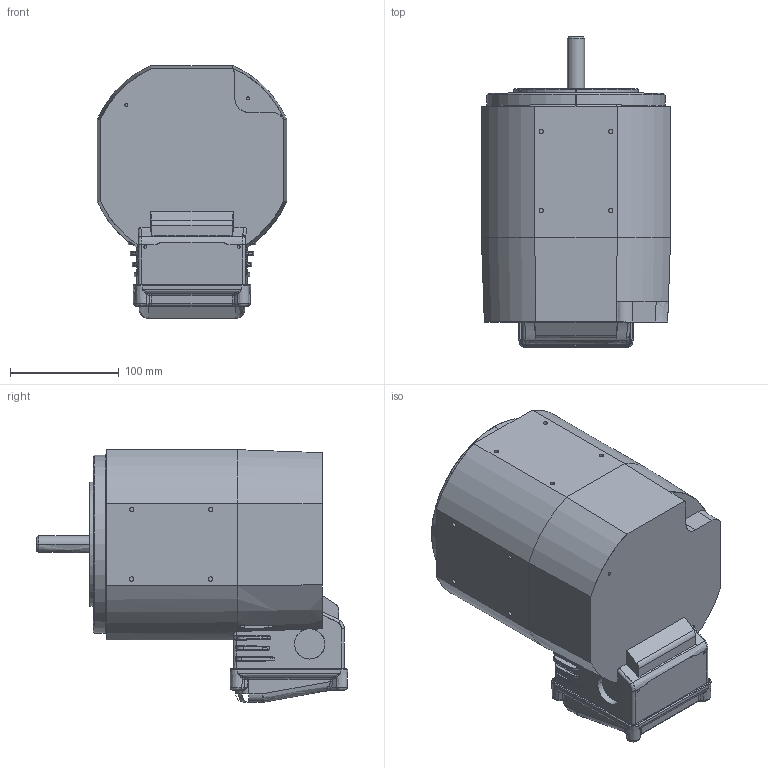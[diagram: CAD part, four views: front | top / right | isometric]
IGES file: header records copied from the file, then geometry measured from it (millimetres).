
Start section: SolidWorks IGES file using analytic representation for surfaces
Global section: file name: C:\TeknicPDM\AC Green\AC Green Customer Downloadable Files\CPM-_ _ _ _-N056_ _-_ _ _ _SIMPLIFIED.IGS; native system: SolidWorks 2020; preprocessor: SolidWorks 2020; author: ken_call; date: 230222.151810; units: inch
Bounding box: 174.24 x 286.59 x 232.55 mm (x, y, z)
Surface area: 222466.9 mm2 (no closed solid volume)
Topology: 0 solids, 0 shells, 1191 faces, 11171 edges, 11118 vertices
Faces by surface type: bspline 776, revolution 415
